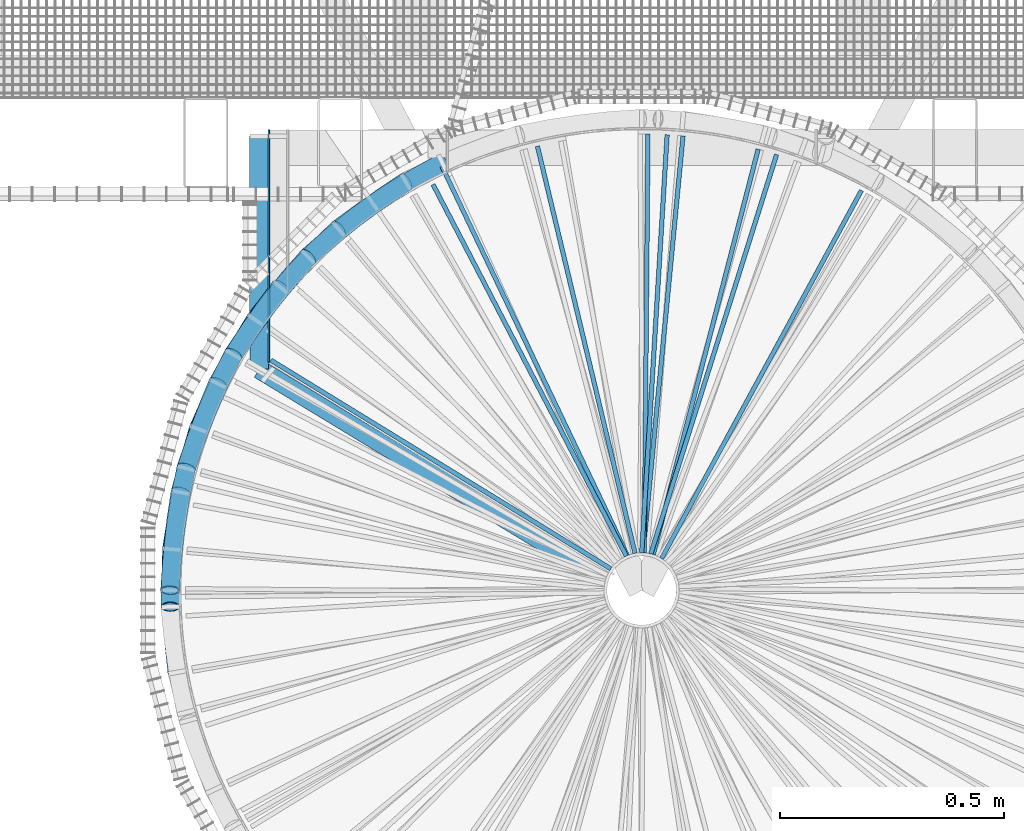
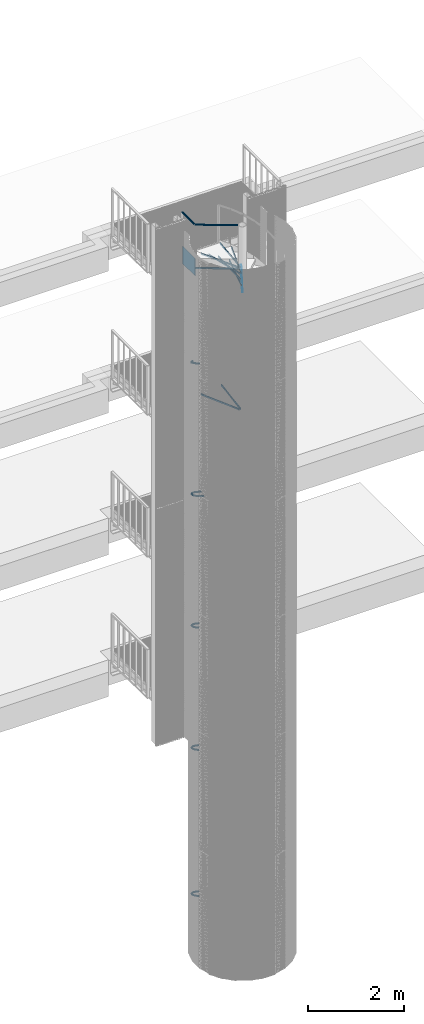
# One storey, part 217 of 1148: 20 members, 13 beams, 24 elements without a shape of their own.
"""IFC2X3 building model written with IfcOpenShell, lengths in millimetres."""

import ifcopenshell
import ifcopenshell.guid

model = None  # the IFC model being written
_history = None  # IfcOwnerHistory: only IFC2X3 demands one
_inside = {}  # id of a spatial element -> (the spatial element, [elements in it])
_under = {}  # id of a project, library or spatial element -> (it, [spatial elements below it])
_declared = {}  # id of a project -> (the project, [libraries it declares])
_typed = {}  # id of a type object -> (the type object, [elements of that type])
_made_of = {}  # id of a material, layer set ... -> (it, [elements and type objects made of it])


def new_model(schema):
    """Start an empty IFC model of exactly this schema.

    Asked for "IFC4X3", IfcOpenShell would pick the latest addendum, in which some entities
    have other attributes; the version numbers below select the first issue.
    IFC2X3 requires an IfcOwnerHistory on every rooted entity: one is made here for all.
    """
    global model, _history
    if schema == "IFC4X3":
        model = ifcopenshell.file(schema_version=(4, 3, 0, 0))
    else:
        model = ifcopenshell.file(schema=schema)
    _inside.clear()
    _under.clear()
    _declared.clear()
    _typed.clear()
    _made_of.clear()
    _history = None
    if model.schema == "IFC2X3":
        org = make("IfcOrganization", Name="unknown")
        user = make(
            "IfcPersonAndOrganization",
            ThePerson=make("IfcPerson", FamilyName="unknown"),
            TheOrganization=org,
        )
        app = make(
            "IfcApplication",
            ApplicationDeveloper=org,
            Version="unknown",
            ApplicationFullName="unknown",
            ApplicationIdentifier="unknown",
        )
        _history = make(
            "IfcOwnerHistory",
            OwningUser=user,
            OwningApplication=app,
            ChangeAction="ADDED",
            CreationDate=0,
        )
    return model


def make(cls, **values):
    """One entity of the class cls with the attributes given. An attribute that is None is left unset."""
    return model.create_entity(
        cls, **{name: value for name, value in values.items() if value is not None}
    )


def entity(cls, *values):
    """Any entity or typed value of the class cls, its attributes in the order of the schema. None: left unset."""
    e = model.create_entity(cls)
    for i, value in enumerate(values):
        if value is not None:
            e[i] = value
    return e


def rooted(cls, **values):
    """An entity with a GlobalId (a new one), such as an element, a storey or a relation."""
    return make(cls, GlobalId=ifcopenshell.guid.new(), OwnerHistory=_history, **values)


def si_unit(unit_type, name, prefix=None):
    """IfcSIUnit, for example si_unit("LENGTHUNIT", "METRE", prefix="MILLI")."""
    return make("IfcSIUnit", UnitType=unit_type, Prefix=prefix, Name=name)


def assignment(units):
    """IfcUnitAssignment: the units of a project."""
    return None if units is None else make("IfcUnitAssignment", Units=units)


def point(xyz):
    """IfcCartesianPoint."""
    return None if xyz is None else make("IfcCartesianPoint", Coordinates=xyz)


def direction(xyz):
    """IfcDirection."""
    return None if xyz is None else make("IfcDirection", DirectionRatios=xyz)


def frame(location, z_axis=None, x_axis=None):
    """IfcAxis2Placement3D, a coordinate frame: its origin and axes. An axis left out is left unset."""
    return make(
        "IfcAxis2Placement3D",
        Location=point(location),
        Axis=direction(z_axis),
        RefDirection=direction(x_axis),
    )


def frame_2d(location, x_axis=None):
    """IfcAxis2Placement2D, a coordinate frame in the plane: its origin and x axis."""
    return make(
        "IfcAxis2Placement2D", Location=point(location), RefDirection=direction(x_axis)
    )


def origin_with_axes():
    """The frame at (0, 0, 0) with the z axis (0, 0, 1) and the x axis (1, 0, 0) written out."""
    return frame((0.0, 0.0, 0.0), z_axis=(0.0, 0.0, 1.0), x_axis=(1.0, 0.0, 0.0))


def origin_2d_with_axis():
    """The frame at (0, 0) in the plane with the x axis (1, 0) written out."""
    return frame_2d((0.0, 0.0), x_axis=(1.0, 0.0))


def place(relative_to, where):
    """IfcLocalPlacement: puts the frame where relative to a parent placement (None: the world)."""
    return make(
        "IfcLocalPlacement", PlacementRelTo=relative_to, RelativePlacement=where
    )


def context(
    kind, dimensions, precision=None, world=None, true_north=None, identifier=None
):
    """IfcGeometricRepresentationContext, for example the 3D "Model" context."""
    return make(
        "IfcGeometricRepresentationContext",
        ContextIdentifier=identifier,
        ContextType=kind,
        CoordinateSpaceDimension=dimensions,
        Precision=precision,
        WorldCoordinateSystem=world,
        TrueNorth=true_north,
    )


def subcontext(parent, identifier, kind, view, scale=None):
    """IfcGeometricRepresentationSubContext, for example "Body" below "Model"."""
    return make(
        "IfcGeometricRepresentationSubContext",
        ContextIdentifier=identifier,
        ContextType=kind,
        ParentContext=parent,
        TargetScale=scale,
        TargetView=view,
    )


def project(units=None, contexts=None):
    """IfcProject with its units and contexts."""
    return rooted(
        "IfcProject",
        Name="project",
        RepresentationContexts=contexts,
        UnitsInContext=assignment(units),
    )


def spatial(cls, under=None, at=None, **own):
    """A site, building, storey or space (cls), placed at a placement, below another one or the project."""
    s = rooted(cls, ObjectPlacement=at, **own)
    if under is not None:
        _under.setdefault(under.id(), (under, []))[1].append(s)
    return s


def profile(cls, at=None, kind="AREA", **sizes):
    """A parametric profile (cls). Its sizes go by their IFC names, for example OverallWidth=200.0."""
    return make(cls, ProfileType=kind, Position=at, **sizes)


def rectangle(**sizes):
    """IfcRectangleProfileDef."""
    return profile("IfcRectangleProfileDef", **sizes)


def hollow_circle(**sizes):
    """IfcCircleHollowProfileDef."""
    return profile("IfcCircleHollowProfileDef", **sizes)


def extrude(swept, where, along, depth):
    """IfcExtrudedAreaSolid: the profile swept, set in the frame where, extruded along a direction by depth."""
    return make(
        "IfcExtrudedAreaSolid",
        SweptArea=swept,
        Position=where,
        ExtrudedDirection=direction(along),
        Depth=depth,
    )


def shape(context_of_items, identifier, shape_type, items):
    """IfcShapeRepresentation: the items that make up one representation, for example the "Body"."""
    return make(
        "IfcShapeRepresentation",
        ContextOfItems=context_of_items,
        RepresentationIdentifier=identifier,
        RepresentationType=shape_type,
        Items=items,
    )


def material(Name=None, Category=None):
    """IfcMaterial."""
    return make("IfcMaterial", Name=Name, Category=Category)


def made_of(thing, what):
    """Note that an element or type object is made of a material, layer set ...; save() writes the relation."""
    if what is not None:
        _made_of.setdefault(what.id(), (what, []))[1].append(thing)
    return thing


def type_object(cls, material=None, **own):
    """A type object (cls), such as IfcWallType, which elements share."""
    return made_of(rooted(cls, **own), material)


def element(
    cls,
    number,
    at=None,
    inside=None,
    cuts=None,
    type_object=None,
    material=None,
    context=None,
    identifier="Body",
    shape_type=None,
    held_by="IfcProductDefinitionShape",
    body=None,
    shapes=None,
    **own,
):
    """One element of the class cls, such as IfcWall. Its Tag is "e" and its number.

    at: its placement. inside: the storey or other place that contains it. cuts: it is an
    opening in that element (IfcRelVoidsElement). A single representation is given by context,
    identifier, shape_type and body (its items); several are given by shapes. held_by: the class
    of the entity that holds the representations. save() writes the other relations.
    """
    e = rooted(cls, Tag="e%d" % number, ObjectPlacement=at, **own)
    if body is not None:
        shapes = [shape(context, identifier, shape_type, body)]
    if shapes is not None:
        e.Representation = make(held_by, Representations=shapes)
    if inside is not None:
        _inside.setdefault(inside.id(), (inside, []))[1].append(e)
    if cuts is not None:
        rooted(
            "IfcRelVoidsElement", RelatingBuildingElement=cuts, RelatedOpeningElement=e
        )
    if type_object is not None:
        _typed.setdefault(type_object.id(), (type_object, []))[1].append(e)
    return made_of(e, material)


def aggregate(whole, parts):
    """IfcRelAggregates: a whole, such as a stair, and the parts it consists of."""
    return rooted("IfcRelAggregates", RelatingObject=whole, RelatedObjects=parts)


def save(model, path):
    """Write the relations noted so far, then the file.

    IfcRelAggregates (storeys below a building ...), IfcRelContainedInSpatialStructure (elements
    in a storey), IfcRelDefinesByType, IfcRelAssociatesMaterial and IfcRelDeclares: one each for
    every whole, place, type object, material and project.
    """
    for whole, parts in _under.values():
        aggregate(whole, parts)
    for where, things in _inside.values():
        rooted(
            "IfcRelContainedInSpatialStructure",
            RelatedElements=things,
            RelatingStructure=where,
        )
    for kind, things in _typed.values():
        rooted("IfcRelDefinesByType", RelatedObjects=things, RelatingType=kind)
    for what, things in _made_of.values():
        rooted("IfcRelAssociatesMaterial", RelatedObjects=things, RelatingMaterial=what)
    for by, libraries in _declared.values():
        rooted("IfcRelDeclares", RelatingContext=by, RelatedDefinitions=libraries)
    model.write(path)


model = new_model("IFC2X3")

# Units and contexts
model_context = context("Model", 3, precision=1e-05, world=origin_with_axes())
body_context = subcontext(model_context, "Body", "Model", "MODEL_VIEW")
ifc_project = project(units=[si_unit("LENGTHUNIT", "METRE", prefix="MILLI"), si_unit("AREAUNIT", "SQUARE_METRE"), si_unit("VOLUMEUNIT", "CUBIC_METRE"), si_unit("MASSUNIT", "GRAM", prefix="KILO"), si_unit("TIMEUNIT", "SECOND"), si_unit("PLANEANGLEUNIT", "RADIAN"), si_unit("SOLIDANGLEUNIT", "STERADIAN"), si_unit("THERMODYNAMICTEMPERATUREUNIT", "DEGREE_CELSIUS"), si_unit("LUMINOUSINTENSITYUNIT", "LUMEN")], contexts=[model_context])

# Site, building, storey
site_placement = place(None, origin_with_axes())
site = spatial("IfcSite", under=ifc_project, at=site_placement, Name="Undefined", CompositionType="ELEMENT")
building_placement = place(site_placement, origin_with_axes())
building = spatial("IfcBuilding", under=site, at=building_placement, Name="Undefined", CompositionType="ELEMENT")
storey_placement = place(building_placement, origin_with_axes())
storey = spatial("IfcBuildingStorey", under=building, at=storey_placement, Name="Undefined", CompositionType="ELEMENT", Elevation=0.0)

# Assembly, beams
assembly_1_placement = place(storey_placement, origin_with_axes())
assembly_1 = element("IfcElementAssembly", 1, at=assembly_1_placement, inside=storey, Name="POTEAU", AssemblyPlace="NOTDEFINED", PredefinedType="NOTDEFINED")
ifc_material = material(Name="STEEL/S235JR")
beam_type_1 = type_object("IfcBeamType", Name="PL10*40", PredefinedType="NOTDEFINED")
beam_1_placement = place(assembly_1_placement, frame((-68.8944826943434, 48.1595929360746, 17265.96), z_axis=(0.0, 0.0, 1.0), x_axis=(-0.852231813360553, 0.523164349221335, 0.0)))
beam_1 = element("IfcBeam", 2, at=beam_1_placement, type_object=beam_type_1, material=ifc_material, Name="RAIDISSEUR", context=body_context, shape_type="SweptSolid", body=[
    extrude(rectangle(XDim=10.0, YDim=40.0, at=origin_2d_with_axis()), frame((891.021953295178, 1.8684510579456e-12, 3.63797880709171e-12), z_axis=(-1.0, 0.0, 0.0), x_axis=(0.0, -1.0, 0.0)), (0.0, 0.0, 1.0), 891.02),
])
beam_2_placement = place(assembly_1_placement, frame((-14.7051172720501, 82.7620424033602, 17109.44), z_axis=(0.0, 0.0, 1.0), x_axis=(-0.233195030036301, 0.972429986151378, 0.0)))
beam_2 = element("IfcBeam", 3, at=beam_2_placement, type_object=beam_type_1, material=ifc_material, Name="RAIDISSEUR", context=body_context, shape_type="SweptSolid", body=[
    extrude(rectangle(XDim=10.0, YDim=40.0, at=origin_2d_with_axis()), frame((935.982964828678, -2.59787459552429e-14, -3.63797880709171e-12), z_axis=(-1.0, 0.0, 0.0), x_axis=(0.0, -1.0, 0.0)), (0.0, 0.0, 1.0), 935.98),
])
beam_3_placement = place(assembly_1_placement, frame((0.110235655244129, 84.0582178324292, 17265.96), z_axis=(0.0, 0.0, 1.0), x_axis=(0.0607915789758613, 0.998150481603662, 0.0)))
beam_3 = element("IfcBeam", 4, at=beam_3_placement, type_object=beam_type_1, material=ifc_material, Name="RAIDISSEUR", context=body_context, shape_type="SweptSolid", body=[
    extrude(rectangle(XDim=10.0, YDim=40.0, at=origin_2d_with_axis()), frame((935.982964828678, -2.59787459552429e-14, -3.63797880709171e-12), z_axis=(-1.0, 0.0, 0.0), x_axis=(0.0, -1.0, 0.0)), (0.0, 0.0, 1.0), 935.98),
])
beam_4_placement = place(assembly_1_placement, frame((5.75363773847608, 83.861145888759, 16952.92), z_axis=(0.0, 0.0, 1.0), x_axis=(0.00898396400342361, 0.999959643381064, 0.0)))
beam_4 = element("IfcBeam", 5, at=beam_4_placement, type_object=beam_type_1, material=ifc_material, Name="RAIDISSEUR", context=body_context, shape_type="SweptSolid", body=[
    extrude(rectangle(XDim=10.0, YDim=40.0, at=origin_2d_with_axis()), frame((935.982964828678, -2.59787459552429e-14, -3.63797880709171e-12), z_axis=(-1.0, 0.0, 0.0), x_axis=(0.0, -1.0, 0.0)), (0.0, 0.0, 1.0), 935.98),
])
beam_5_placement = place(assembly_1_placement, frame((-34.2902626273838, 76.7461662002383, 17265.96), z_axis=(0.0, 0.0, 1.0), x_axis=(-0.461520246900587, 0.88712967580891, 0.0)))
beam_5 = element("IfcBeam", 6, at=beam_5_placement, type_object=beam_type_1, material=ifc_material, Name="RAIDISSEUR", context=body_context, shape_type="SweptSolid", body=[
    extrude(rectangle(XDim=10.0, YDim=40.0, at=origin_2d_with_axis()), frame((935.982964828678, -2.59787459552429e-14, -3.63797880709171e-12), z_axis=(-1.0, 0.0, 0.0), x_axis=(0.0, -1.0, 0.0)), (0.0, 0.0, 1.0), 935.98),
])
beam_6_placement = place(assembly_1_placement, frame((25.8705774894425, 79.9781805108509, 16796.4), z_axis=(0.0, 0.0, 1.0), x_axis=(0.250629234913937, 0.968083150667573, 0.0)))
beam_6 = element("IfcBeam", 7, at=beam_6_placement, type_object=beam_type_1, material=ifc_material, Name="RAIDISSEUR", context=body_context, shape_type="SweptSolid", body=[
    extrude(rectangle(XDim=10.0, YDim=40.0, at=origin_2d_with_axis()), frame((935.982964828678, -2.59787459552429e-14, -3.63797880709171e-12), z_axis=(-1.0, 0.0, 0.0), x_axis=(0.0, -1.0, 0.0)), (0.0, 0.0, 1.0), 935.98),
])
beam_7_placement = place(assembly_1_placement, frame((20.4424845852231, 81.5346611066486, 17109.44), z_axis=(0.0, 0.0, 1.0), x_axis=(0.300460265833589, 0.953794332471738, 0.0)))
beam_7 = element("IfcBeam", 8, at=beam_7_placement, type_object=beam_type_1, material=ifc_material, Name="RAIDISSEUR", context=body_context, shape_type="SweptSolid", body=[
    extrude(rectangle(XDim=10.0, YDim=40.0, at=origin_2d_with_axis()), frame((935.982964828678, -2.59787459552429e-14, -3.63797880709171e-12), z_axis=(-1.0, 0.0, 0.0), x_axis=(0.0, -1.0, 0.0)), (0.0, 0.0, 1.0), 935.98),
])
beam_8_placement = place(assembly_1_placement, frame((44.4505838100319, 71.3438275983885, 16639.88), z_axis=(0.0, 0.0, 1.0), x_axis=(0.477384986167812, 0.878694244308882, 0.0)))
beam_8 = element("IfcBeam", 9, at=beam_8_placement, type_object=beam_type_1, material=ifc_material, Name="RAIDISSEUR", context=body_context, shape_type="SweptSolid", body=[
    extrude(rectangle(XDim=10.0, YDim=40.0, at=origin_2d_with_axis()), frame((935.982964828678, -2.59787459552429e-14, -3.63797880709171e-12), z_axis=(-1.0, 0.0, 0.0), x_axis=(0.0, -1.0, 0.0)), (0.0, 0.0, 1.0), 935.98),
])

assembly_2_placement = place(storey_placement, origin_with_axes())
assembly_2 = element("IfcElementAssembly", 10, at=assembly_2_placement, inside=storey, Name="POTEAU", AssemblyPlace="NOTDEFINED", PredefinedType="NOTDEFINED")
beam_9_placement = place(assembly_2_placement, frame((3.043757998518, 84.0031646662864, 13665.96), z_axis=(0.0, 0.0, 1.0), x_axis=(0.0955894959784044, 0.995420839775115, 0.0)))
beam_9 = element("IfcBeam", 11, at=beam_9_placement, type_object=beam_type_1, material=ifc_material, Name="RAIDISSEUR", context=body_context, shape_type="SweptSolid", body=[
    extrude(rectangle(XDim=10.0, YDim=40.0, at=origin_2d_with_axis()), frame((935.982964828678, -2.59787459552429e-14, -3.63797880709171e-12), z_axis=(-1.0, 0.0, 0.0), x_axis=(0.0, -1.0, 0.0)), (0.0, 0.0, 1.0), 935.98),
])
beam_10_placement = place(assembly_2_placement, frame((-31.59098121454, 77.8961481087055, 13665.96), z_axis=(0.0, 0.0, 1.0), x_axis=(-0.430274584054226, 0.902698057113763, 0.0)))
beam_10 = element("IfcBeam", 12, at=beam_10_placement, type_object=beam_type_1, material=ifc_material, Name="RAIDISSEUR", context=body_context, shape_type="SweptSolid", body=[
    extrude(rectangle(XDim=10.0, YDim=40.0, at=origin_2d_with_axis()), frame((963.276868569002, 0.0, 0.0), z_axis=(-1.0, 0.0, 0.0), x_axis=(0.0, -1.0, 0.0)), (0.0, 0.0, 1.0), 963.28),
])
aggregate(assembly_2, [beam_9, beam_10])

# Beam
beam_type_2 = type_object("IfcBeamType", Name="PLT4*450", PredefinedType="NOTDEFINED")
beam_11_placement = place(assembly_1_placement, frame((-832.864575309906, 510.050600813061, 17289.84), z_axis=(0.0, 0.0, 1.0), x_axis=(-1.04319999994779e-05, 0.999999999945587, 0.0)))
beam_11 = element("IfcBeam", 13, at=beam_11_placement, type_object=beam_type_2, material=ifc_material, Name="GARDE_PIED", context=body_context, shape_type="SweptSolid", body=[
    extrude(rectangle(XDim=4.0, YDim=450.0, at=origin_2d_with_axis()), frame((519.965544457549, 3.63797880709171e-12, 0.0), z_axis=(-1.0, 0.0, 0.0), x_axis=(0.0, -1.0, 0.0)), (0.0, 0.0, 1.0), 519.97),
])

aggregate(assembly_1, [beam_1, beam_11, beam_2, beam_3, beam_4, beam_5, beam_6, beam_7, beam_8])

# Assembly, beam
assembly_3_placement = place(storey_placement, origin_with_axes())
assembly_3 = element("IfcElementAssembly", 14, at=assembly_3_placement, inside=storey, Name="MAIN_COURANTE", AssemblyPlace="NOTDEFINED", PredefinedType="NOTDEFINED")
beam_type_3 = type_object("IfcBeamType", Name="TUBE-42.4*3.2", PredefinedType="NOTDEFINED")
beam_12_placement = place(assembly_3_placement, frame((-84.9748462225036, 26.4035149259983, 18389.8400000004), z_axis=(-0.51937688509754, -0.854545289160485, 0.0), x_axis=(-0.854545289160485, 0.51937688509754, 0.0)))
beam_12 = element("IfcBeam", 15, at=beam_12_placement, type_object=beam_type_3, material=ifc_material, Name="MAIN_COURANTE", context=body_context, shape_type="SweptSolid", body=[
    extrude(hollow_circle(Radius=21.200000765, WallThickness=3.200000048, at=origin_2d_with_axis()), frame((900.837210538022, 0.0, 0.0), z_axis=(-1.0, 0.0, 0.0), x_axis=(0.0, -1.0, 0.0)), (0.0, 0.0, 1.0), 900.84),
])
aggregate(assembly_3, [beam_12])

assembly_4_placement = place(storey_placement, origin_with_axes())
assembly_4 = element("IfcElementAssembly", 16, at=assembly_4_placement, inside=storey, Name="MAIN_COURANTE", AssemblyPlace="NOTDEFINED", PredefinedType="NOTDEFINED")
beam_13_placement = place(assembly_4_placement, frame((-854.781040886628, 494.277539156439, 18389.8400000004), z_axis=(-0.999999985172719, -0.000172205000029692, 0.0), x_axis=(-0.000172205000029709, 0.999999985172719, 0.0)))
beam_13 = element("IfcBeam", 17, at=beam_13_placement, type_object=beam_type_3, material=ifc_material, Name="MAIN_COURANTE", context=body_context, shape_type="SweptSolid", body=[
    extrude(hollow_circle(Radius=21.200000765, WallThickness=3.200000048, at=origin_2d_with_axis()), frame((521.092468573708, 3.63797880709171e-12, 0.0), z_axis=(-1.0, 0.0, 0.0), x_axis=(0.0, -1.0, 0.0)), (0.0, 0.0, 1.0), 521.09),
])
aggregate(assembly_4, [beam_13])

# Assembly, member
assembly_5_placement = place(storey_placement, origin_with_axes())
assembly_5 = element("IfcElementAssembly", 18, at=assembly_5_placement, inside=storey, Name="MONTANT", AssemblyPlace="NOTDEFINED", PredefinedType="NOTDEFINED")
member_type = type_object("IfcMemberType", Name="TUBE-42.4*3.2", PredefinedType="NOTDEFINED")
member_1_placement = place(assembly_5_placement, frame((-1018.08582091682, 272.795273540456, 5272.03999999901), z_axis=(-0.991444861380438, 0.130526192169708, 6.66032065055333e-11), x_axis=(-0.113807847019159, -0.864456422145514, 0.489655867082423)))
member_1 = element("IfcMember", 19, at=member_1_placement, type_object=member_type, material=ifc_material, Name="MAIN_COURANTE", context=body_context, shape_type="SweptSolid", body=[
    entity("IfcRevolvedAreaSolid", entity("IfcCircleHollowProfileDef", "AREA", None, entity("IfcAxis2Placement2D", entity("IfcCartesianPoint", [0.0, 0.0]), entity("IfcDirection", [1.0, 0.0])), 21.200000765, 3.200000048), entity("IfcAxis2Placement3D", entity("IfcCartesianPoint", [315.568566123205, -9.09494701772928e-13, -1.31255851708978e-15]), entity("IfcDirection", [-0.997194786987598, -4.44488503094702e-18, 0.0748502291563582]), entity("IfcDirection", [0.0, -1.0, 0.0])), entity("IfcAxis1Placement", entity("IfcCartesianPoint", [0.0, -2108.0, 0.0]), entity("IfcDirection", [1.0, 0.0, 0.0])), 0.149840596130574),
])
aggregate(assembly_5, [member_1])

assembly_6_placement = place(storey_placement, origin_with_axes())
assembly_6 = element("IfcElementAssembly", 20, at=assembly_6_placement, inside=storey, Name="MONTANT", AssemblyPlace="NOTDEFINED", PredefinedType="NOTDEFINED")
member_2_placement = place(assembly_6_placement, frame((-912.79077557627, 526.999999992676, 5117.51999999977), z_axis=(-0.923879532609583, 0.382683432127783, 1.50203049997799e-10), x_axis=(-0.333667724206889, -0.805545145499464, 0.489655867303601)))
member_2 = element("IfcMember", 21, at=member_2_placement, type_object=member_type, material=ifc_material, Name="MAIN_COURANTE", context=body_context, shape_type="SweptSolid", body=[
    entity("IfcRevolvedAreaSolid", entity("IfcCircleHollowProfileDef", "AREA", None, entity("IfcAxis2Placement2D", entity("IfcCartesianPoint", [0.0, 0.0]), entity("IfcDirection", [1.0, 0.0])), 21.200000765, 3.200000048), entity("IfcAxis2Placement3D", entity("IfcCartesianPoint", [315.568566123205, -9.09494701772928e-13, -1.31255851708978e-15]), entity("IfcDirection", [-0.997194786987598, -4.44488503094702e-18, 0.0748502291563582]), entity("IfcDirection", [0.0, -1.0, 0.0])), entity("IfcAxis1Placement", entity("IfcCartesianPoint", [0.0, -2108.0, 0.0]), entity("IfcDirection", [1.0, 0.0, 0.0])), 0.149840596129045),
])
aggregate(assembly_6, [member_2])

assembly_7_placement = place(storey_placement, origin_with_axes())
assembly_7 = element("IfcElementAssembly", 22, at=assembly_7_placement, inside=storey, Name="MONTANT", AssemblyPlace="NOTDEFINED", PredefinedType="NOTDEFINED")
member_3_placement = place(assembly_7_placement, frame((-745.290547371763, 745.290547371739, 4963.00000000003), z_axis=(-0.793353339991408, 0.608761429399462, 1.80913048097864e-10), x_axis=(-0.53078869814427, -0.691737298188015, 0.489655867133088)))
member_3 = element("IfcMember", 23, at=member_3_placement, type_object=member_type, material=ifc_material, Name="MAIN_COURANTE", context=body_context, shape_type="SweptSolid", body=[
    entity("IfcRevolvedAreaSolid", entity("IfcCircleHollowProfileDef", "AREA", None, entity("IfcAxis2Placement2D", entity("IfcCartesianPoint", [0.0, 0.0]), entity("IfcDirection", [1.0, 0.0])), 21.200000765, 3.200000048), entity("IfcAxis2Placement3D", entity("IfcCartesianPoint", [315.568566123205, -9.09494701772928e-13, -1.31255851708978e-15]), entity("IfcDirection", [-0.997194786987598, -4.44488503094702e-18, 0.0748502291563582]), entity("IfcDirection", [0.0, -1.0, 0.0])), entity("IfcAxis1Placement", entity("IfcCartesianPoint", [0.0, -2108.0, 0.0]), entity("IfcDirection", [1.0, 0.0, 0.0])), 0.149840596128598),
])
aggregate(assembly_7, [member_3])

assembly_8_placement = place(storey_placement, origin_with_axes())
assembly_8 = element("IfcElementAssembly", 24, at=assembly_8_placement, inside=storey, Name="MONTANT", AssemblyPlace="NOTDEFINED", PredefinedType="NOTDEFINED")
member_4_placement = place(assembly_8_placement, frame((-527.000000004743, 912.790775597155, 4808.47999999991), z_axis=(-0.608761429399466, 0.793353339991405, -1.80915321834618e-10), x_axis=(-0.691737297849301, -0.530788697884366, 0.489655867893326)))
member_4 = element("IfcMember", 25, at=member_4_placement, type_object=member_type, material=ifc_material, Name="MAIN_COURANTE", context=body_context, shape_type="SweptSolid", body=[
    entity("IfcRevolvedAreaSolid", entity("IfcCircleHollowProfileDef", "AREA", None, entity("IfcAxis2Placement2D", entity("IfcCartesianPoint", [0.0, 0.0]), entity("IfcDirection", [1.0, 0.0])), 21.200000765, 3.200000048), entity("IfcAxis2Placement3D", entity("IfcCartesianPoint", [315.568566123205, -9.09494701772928e-13, -1.31255851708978e-15]), entity("IfcDirection", [-0.997194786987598, -4.44488503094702e-18, 0.0748502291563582]), entity("IfcDirection", [0.0, -1.0, 0.0])), entity("IfcAxis1Placement", entity("IfcCartesianPoint", [0.0, -2108.0, 0.0]), entity("IfcDirection", [1.0, 0.0, 0.0])), 0.149840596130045),
])
aggregate(assembly_8, [member_4])

assembly_9_placement = place(storey_placement, origin_with_axes())
assembly_9 = element("IfcElementAssembly", 26, at=assembly_9_placement, inside=storey, Name="MONTANT", AssemblyPlace="NOTDEFINED", PredefinedType="NOTDEFINED")
member_5_placement = place(assembly_9_placement, frame((-1018.08582091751, 272.795273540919, 8372.60000000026), z_axis=(-0.991444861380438, 0.130526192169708, 6.66032065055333e-11), x_axis=(-0.113454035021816, -0.861768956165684, 0.494451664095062)))
member_5 = element("IfcMember", 27, at=member_5_placement, type_object=member_type, material=ifc_material, Name="MAIN_COURANTE", context=body_context, shape_type="SweptSolid", body=[
    entity("IfcRevolvedAreaSolid", entity("IfcCircleHollowProfileDef", "AREA", None, entity("IfcAxis2Placement2D", entity("IfcCartesianPoint", [0.0, 0.0]), entity("IfcDirection", [1.0, 0.0])), 21.200000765, 3.200000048), entity("IfcAxis2Placement3D", entity("IfcCartesianPoint", [316.552681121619, 9.09494701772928e-13, -1.82569453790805e-12]), entity("IfcDirection", [-0.997177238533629, 2.1263748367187e-18, 0.0750836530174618]), entity("IfcDirection", [0.0, -1.0, 0.0])), entity("IfcAxis1Placement", entity("IfcCartesianPoint", [0.0, -2108.0, 0.0]), entity("IfcDirection", [1.0, 0.0, 0.0])), 0.150308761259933),
])
aggregate(assembly_9, [member_5])

assembly_10_placement = place(storey_placement, origin_with_axes())
assembly_10 = element("IfcElementAssembly", 28, at=assembly_10_placement, inside=storey, Name="MONTANT", AssemblyPlace="NOTDEFINED", PredefinedType="NOTDEFINED")
member_6_placement = place(assembly_10_placement, frame((-912.79077559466, 527.000000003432, 8216.07999999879), z_axis=(-0.923879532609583, 0.382683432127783, 1.50203049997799e-10), x_axis=(-0.332630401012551, -0.803040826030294, 0.494451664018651)))
member_6 = element("IfcMember", 29, at=member_6_placement, type_object=member_type, material=ifc_material, Name="MAIN_COURANTE", context=body_context, shape_type="SweptSolid", body=[
    entity("IfcRevolvedAreaSolid", entity("IfcCircleHollowProfileDef", "AREA", None, entity("IfcAxis2Placement2D", entity("IfcCartesianPoint", [0.0, 0.0]), entity("IfcDirection", [1.0, 0.0])), 21.200000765, 3.200000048), entity("IfcAxis2Placement3D", entity("IfcCartesianPoint", [316.552681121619, 9.09494701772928e-13, -1.82569453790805e-12]), entity("IfcDirection", [-0.997177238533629, 2.1263748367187e-18, 0.0750836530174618]), entity("IfcDirection", [0.0, -1.0, 0.0])), entity("IfcAxis1Placement", entity("IfcCartesianPoint", [0.0, -2108.0, 0.0]), entity("IfcDirection", [1.0, 0.0, 0.0])), 0.150308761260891),
])
aggregate(assembly_10, [member_6])

assembly_11_placement = place(storey_placement, origin_with_axes())
assembly_11 = element("IfcElementAssembly", 30, at=assembly_11_placement, inside=storey, Name="MONTANT", AssemblyPlace="NOTDEFINED", PredefinedType="NOTDEFINED")
member_7_placement = place(assembly_11_placement, frame((-745.290547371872, 745.290547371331, 8059.55999999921), z_axis=(-0.793353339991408, 0.608761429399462, 1.80913048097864e-10), x_axis=(-0.5291385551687, -0.689586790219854, 0.49445166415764)))
member_7 = element("IfcMember", 31, at=member_7_placement, type_object=member_type, material=ifc_material, Name="MAIN_COURANTE", context=body_context, shape_type="SweptSolid", body=[
    entity("IfcRevolvedAreaSolid", entity("IfcCircleHollowProfileDef", "AREA", None, entity("IfcAxis2Placement2D", entity("IfcCartesianPoint", [0.0, 0.0]), entity("IfcDirection", [1.0, 0.0])), 21.200000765, 3.200000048), entity("IfcAxis2Placement3D", entity("IfcCartesianPoint", [316.552681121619, 9.09494701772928e-13, -1.82569453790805e-12]), entity("IfcDirection", [-0.997177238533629, 2.1263748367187e-18, 0.0750836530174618]), entity("IfcDirection", [0.0, -1.0, 0.0])), entity("IfcAxis1Placement", entity("IfcCartesianPoint", [0.0, -2108.0, 0.0]), entity("IfcDirection", [1.0, 0.0, 0.0])), 0.150308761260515),
])
aggregate(assembly_11, [member_7])

assembly_12_placement = place(storey_placement, origin_with_axes())
assembly_12 = element("IfcElementAssembly", 32, at=assembly_12_placement, inside=storey, Name="MONTANT", AssemblyPlace="NOTDEFINED", PredefinedType="NOTDEFINED")
member_8_placement = place(assembly_12_placement, frame((-1049.98921176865, 91.8621528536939, 11816.0800000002), z_axis=(-0.999048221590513, -0.0436193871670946, 1.05123035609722e-10), x_axis=(0.0379141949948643, -0.868377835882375, 0.494451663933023)))
member_8 = element("IfcMember", 33, at=member_8_placement, type_object=member_type, material=ifc_material, Name="MAIN_COURANTE", context=body_context, shape_type="SweptSolid", body=[
    entity("IfcRevolvedAreaSolid", entity("IfcCircleHollowProfileDef", "AREA", None, entity("IfcAxis2Placement2D", entity("IfcCartesianPoint", [0.0, 0.0]), entity("IfcDirection", [1.0, 0.0])), 21.200000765, 3.200000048), entity("IfcAxis2Placement3D", entity("IfcCartesianPoint", [316.552681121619, 9.09494701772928e-13, -1.82569453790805e-12]), entity("IfcDirection", [-0.997177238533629, 2.1263748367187e-18, 0.0750836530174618]), entity("IfcDirection", [0.0, -1.0, 0.0])), entity("IfcAxis1Placement", entity("IfcCartesianPoint", [0.0, -2108.0, 0.0]), entity("IfcDirection", [1.0, 0.0, 0.0])), 0.15030876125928),
])
aggregate(assembly_12, [member_8])

assembly_13_placement = place(storey_placement, origin_with_axes())
assembly_13 = element("IfcElementAssembly", 34, at=assembly_13_placement, inside=storey, Name="MONTANT", AssemblyPlace="NOTDEFINED", PredefinedType="NOTDEFINED")
member_9_placement = place(assembly_13_placement, frame((-990.43602230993, 360.489231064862, 11659.5600000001), z_axis=(-0.97629600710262, 0.216439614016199, 3.63797880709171e-12), x_axis=(-0.188130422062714, -0.848601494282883, 0.494451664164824)))
member_9 = element("IfcMember", 35, at=member_9_placement, type_object=member_type, material=ifc_material, Name="MAIN_COURANTE", context=body_context, shape_type="SweptSolid", body=[
    entity("IfcRevolvedAreaSolid", entity("IfcCircleHollowProfileDef", "AREA", None, entity("IfcAxis2Placement2D", entity("IfcCartesianPoint", [0.0, 0.0]), entity("IfcDirection", [1.0, 0.0])), 21.200000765, 3.200000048), entity("IfcAxis2Placement3D", entity("IfcCartesianPoint", [316.552681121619, 9.09494701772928e-13, -1.82569453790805e-12]), entity("IfcDirection", [-0.997177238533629, 2.1263748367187e-18, 0.0750836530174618]), entity("IfcDirection", [0.0, -1.0, 0.0])), entity("IfcAxis1Placement", entity("IfcCartesianPoint", [0.0, -2108.0, 0.0]), entity("IfcDirection", [1.0, 0.0, 0.0])), 0.150308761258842),
])
aggregate(assembly_13, [member_9])

assembly_14_placement = place(storey_placement, origin_with_axes())
assembly_14 = element("IfcElementAssembly", 36, at=assembly_14_placement, inside=storey, Name="MONTANT", AssemblyPlace="NOTDEFINED", PredefinedType="NOTDEFINED")
member_10_placement = place(assembly_14_placement, frame((-1018.08582091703, 272.79527354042, 1563.55999999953), z_axis=(-0.991444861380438, 0.130526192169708, 6.66032065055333e-11), x_axis=(-0.113807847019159, -0.864456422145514, 0.489655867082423)))
member_10 = element("IfcMember", 37, at=member_10_placement, type_object=member_type, material=ifc_material, Name="MAIN_COURANTE", context=body_context, shape_type="SweptSolid", body=[
    entity("IfcRevolvedAreaSolid", entity("IfcCircleHollowProfileDef", "AREA", None, entity("IfcAxis2Placement2D", entity("IfcCartesianPoint", [0.0, 0.0]), entity("IfcDirection", [1.0, 0.0])), 21.200000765, 3.200000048), entity("IfcAxis2Placement3D", entity("IfcCartesianPoint", [315.568566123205, -9.09494701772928e-13, -1.31255851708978e-15]), entity("IfcDirection", [-0.997194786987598, -4.44488503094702e-18, 0.0748502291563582]), entity("IfcDirection", [0.0, -1.0, 0.0])), entity("IfcAxis1Placement", entity("IfcCartesianPoint", [0.0, -2108.0, 0.0]), entity("IfcDirection", [1.0, 0.0, 0.0])), 0.149840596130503),
])
aggregate(assembly_14, [member_10])

assembly_15_placement = place(storey_placement, origin_with_axes())
assembly_15 = element("IfcElementAssembly", 38, at=assembly_15_placement, inside=storey, Name="MONTANT", AssemblyPlace="NOTDEFINED", PredefinedType="NOTDEFINED")
member_11_placement = place(assembly_15_placement, frame((-912.790775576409, 526.999999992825, 1409.03999999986), z_axis=(-0.923879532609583, 0.382683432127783, 1.50203049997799e-10), x_axis=(-0.333667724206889, -0.805545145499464, 0.489655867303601)))
member_11 = element("IfcMember", 39, at=member_11_placement, type_object=member_type, material=ifc_material, Name="MAIN_COURANTE", context=body_context, shape_type="SweptSolid", body=[
    entity("IfcRevolvedAreaSolid", entity("IfcCircleHollowProfileDef", "AREA", None, entity("IfcAxis2Placement2D", entity("IfcCartesianPoint", [0.0, 0.0]), entity("IfcDirection", [1.0, 0.0])), 21.200000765, 3.200000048), entity("IfcAxis2Placement3D", entity("IfcCartesianPoint", [315.568566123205, -9.09494701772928e-13, -1.31255851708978e-15]), entity("IfcDirection", [-0.997194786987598, -4.44488503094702e-18, 0.0748502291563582]), entity("IfcDirection", [0.0, -1.0, 0.0])), entity("IfcAxis1Placement", entity("IfcCartesianPoint", [0.0, -2108.0, 0.0]), entity("IfcDirection", [1.0, 0.0, 0.0])), 0.149840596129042),
])
aggregate(assembly_15, [member_11])

assembly_16_placement = place(storey_placement, origin_with_axes())
assembly_16 = element("IfcElementAssembly", 40, at=assembly_16_placement, inside=storey, Name="MONTANT", AssemblyPlace="NOTDEFINED", PredefinedType="NOTDEFINED")
member_12_placement = place(assembly_16_placement, frame((-745.290547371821, 745.290547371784, 1254.51999999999), z_axis=(-0.793353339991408, 0.608761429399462, 1.80913048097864e-10), x_axis=(-0.53078869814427, -0.691737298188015, 0.489655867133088)))
member_12 = element("IfcMember", 41, at=member_12_placement, type_object=member_type, material=ifc_material, Name="MAIN_COURANTE", context=body_context, shape_type="SweptSolid", body=[
    entity("IfcRevolvedAreaSolid", entity("IfcCircleHollowProfileDef", "AREA", None, entity("IfcAxis2Placement2D", entity("IfcCartesianPoint", [0.0, 0.0]), entity("IfcDirection", [1.0, 0.0])), 21.200000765, 3.200000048), entity("IfcAxis2Placement3D", entity("IfcCartesianPoint", [315.568566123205, -9.09494701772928e-13, -1.31255851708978e-15]), entity("IfcDirection", [-0.997194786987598, -4.44488503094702e-18, 0.0748502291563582]), entity("IfcDirection", [0.0, -1.0, 0.0])), entity("IfcAxis1Placement", entity("IfcCartesianPoint", [0.0, -2108.0, 0.0]), entity("IfcDirection", [1.0, 0.0, 0.0])), 0.14984059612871),
])
aggregate(assembly_16, [member_12])

assembly_17_placement = place(storey_placement, origin_with_axes())
assembly_17 = element("IfcElementAssembly", 42, at=assembly_17_placement, inside=storey, Name="MONTANT", AssemblyPlace="NOTDEFINED", PredefinedType="NOTDEFINED")
member_13_placement = place(assembly_17_placement, frame((-527.000000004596, 912.790775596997, 1100.00000000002), z_axis=(-0.608761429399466, 0.793353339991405, -1.80915321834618e-10), x_axis=(-0.691737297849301, -0.530788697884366, 0.489655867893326)))
member_13 = element("IfcMember", 43, at=member_13_placement, type_object=member_type, material=ifc_material, Name="MAIN_COURANTE", context=body_context, shape_type="SweptSolid", body=[
    entity("IfcRevolvedAreaSolid", entity("IfcCircleHollowProfileDef", "AREA", None, entity("IfcAxis2Placement2D", entity("IfcCartesianPoint", [0.0, 0.0]), entity("IfcDirection", [1.0, 0.0])), 21.200000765, 3.200000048), entity("IfcAxis2Placement3D", entity("IfcCartesianPoint", [315.568566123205, -9.09494701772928e-13, -1.31255851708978e-15]), entity("IfcDirection", [-0.997194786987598, -4.44488503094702e-18, 0.0748502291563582]), entity("IfcDirection", [0.0, -1.0, 0.0])), entity("IfcAxis1Placement", entity("IfcCartesianPoint", [0.0, -2108.0, 0.0]), entity("IfcDirection", [1.0, 0.0, 0.0])), 0.149840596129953),
])
aggregate(assembly_17, [member_13])

assembly_18_placement = place(storey_placement, origin_with_axes())
assembly_18 = element("IfcElementAssembly", 44, at=assembly_18_placement, inside=storey, Name="MONTANT", AssemblyPlace="NOTDEFINED", PredefinedType="NOTDEFINED")
member_14_placement = place(assembly_18_placement, frame((-527.000000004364, 912.790775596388, 7903.04000000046), z_axis=(-0.608761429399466, 0.793353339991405, -1.80915321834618e-10), x_axis=(-0.689586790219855, -0.529138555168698, 0.494451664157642)))
member_14 = element("IfcMember", 45, at=member_14_placement, type_object=member_type, material=ifc_material, Name="MAIN_COURANTE", context=body_context, shape_type="SweptSolid", body=[
    entity("IfcRevolvedAreaSolid", entity("IfcCircleHollowProfileDef", "AREA", None, entity("IfcAxis2Placement2D", entity("IfcCartesianPoint", [0.0, 0.0]), entity("IfcDirection", [1.0, 0.0])), 21.200000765, 3.200000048), entity("IfcAxis2Placement3D", entity("IfcCartesianPoint", [316.552681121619, 9.09494701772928e-13, -1.82569453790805e-12]), entity("IfcDirection", [-0.997177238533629, 2.1263748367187e-18, 0.0750836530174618]), entity("IfcDirection", [0.0, -1.0, 0.0])), entity("IfcAxis1Placement", entity("IfcCartesianPoint", [0.0, -2108.0, 0.0]), entity("IfcDirection", [1.0, 0.0, 0.0])), 0.150308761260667),
])
aggregate(assembly_18, [member_14])

assembly_19_placement = place(storey_placement, origin_with_axes())
assembly_19 = element("IfcElementAssembly", 46, at=assembly_19_placement, inside=storey, Name="MONTANT", AssemblyPlace="NOTDEFINED", PredefinedType="NOTDEFINED")
member_15_placement = place(assembly_19_placement, frame((-677.498140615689, 807.410843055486, 11346.520000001), z_axis=(-0.737277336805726, 0.675590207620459, 8.45193426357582e-11), x_axis=(-0.587226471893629, -0.640845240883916, 0.494451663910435)))
member_15 = element("IfcMember", 47, at=member_15_placement, type_object=member_type, material=ifc_material, Name="MAIN_COURANTE", context=body_context, shape_type="SweptSolid", body=[
    entity("IfcRevolvedAreaSolid", entity("IfcCircleHollowProfileDef", "AREA", None, entity("IfcAxis2Placement2D", entity("IfcCartesianPoint", [0.0, 0.0]), entity("IfcDirection", [1.0, 0.0])), 21.200000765, 3.200000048), entity("IfcAxis2Placement3D", entity("IfcCartesianPoint", [316.552681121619, 9.09494701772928e-13, -1.82569453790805e-12]), entity("IfcDirection", [-0.997177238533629, 2.1263748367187e-18, 0.0750836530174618]), entity("IfcDirection", [0.0, -1.0, 0.0])), entity("IfcAxis1Placement", entity("IfcCartesianPoint", [0.0, -2108.0, 0.0]), entity("IfcDirection", [1.0, 0.0, 0.0])), 0.150308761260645),
])
aggregate(assembly_19, [member_15])

assembly_20_placement = place(storey_placement, origin_with_axes())
assembly_20 = element("IfcElementAssembly", 48, at=assembly_20_placement, inside=storey, Name="MONTANT", AssemblyPlace="NOTDEFINED", PredefinedType="NOTDEFINED")
member_16_placement = place(assembly_20_placement, frame((-863.386254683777, 604.549563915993, 11503.0399999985), z_axis=(-0.887010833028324, 0.461748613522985, -2.56448402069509e-10), x_axis=(-0.401354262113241, -0.770994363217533, 0.494451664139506)))
member_16 = element("IfcMember", 49, at=member_16_placement, type_object=member_type, material=ifc_material, Name="MAIN_COURANTE", context=body_context, shape_type="SweptSolid", body=[
    entity("IfcRevolvedAreaSolid", entity("IfcCircleHollowProfileDef", "AREA", None, entity("IfcAxis2Placement2D", entity("IfcCartesianPoint", [0.0, 0.0]), entity("IfcDirection", [1.0, 0.0])), 21.200000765, 3.200000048), entity("IfcAxis2Placement3D", entity("IfcCartesianPoint", [316.552681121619, 9.09494701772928e-13, -1.82569453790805e-12]), entity("IfcDirection", [-0.997177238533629, 2.1263748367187e-18, 0.0750836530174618]), entity("IfcDirection", [0.0, -1.0, 0.0])), entity("IfcAxis1Placement", entity("IfcCartesianPoint", [0.0, -2108.0, 0.0]), entity("IfcDirection", [1.0, 0.0, 0.0])), 0.150308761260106),
])
aggregate(assembly_20, [member_16])

assembly_21_placement = place(storey_placement, origin_with_axes())
assembly_21 = element("IfcElementAssembly", 50, at=assembly_21_placement, inside=storey, Name="MONTANT", AssemblyPlace="NOTDEFINED", PredefinedType="NOTDEFINED")
member_17_placement = place(assembly_21_placement, frame((-445.439647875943, 955.248407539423, 11190.0000000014), z_axis=(-0.537299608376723, 0.843391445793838, 2.43751856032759e-10), x_axis=(-0.733080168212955, -0.467023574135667, 0.494451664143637)))
member_17 = element("IfcMember", 51, at=member_17_placement, type_object=member_type, material=ifc_material, Name="MAIN_COURANTE", context=body_context, shape_type="SweptSolid", body=[
    entity("IfcRevolvedAreaSolid", entity("IfcCircleHollowProfileDef", "AREA", None, entity("IfcAxis2Placement2D", entity("IfcCartesianPoint", [0.0, 0.0]), entity("IfcDirection", [1.0, 0.0])), 21.200000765, 3.200000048), entity("IfcAxis2Placement3D", entity("IfcCartesianPoint", [316.552681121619, 9.09494701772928e-13, -1.82569453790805e-12]), entity("IfcDirection", [-0.997177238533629, 2.1263748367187e-18, 0.0750836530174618]), entity("IfcDirection", [0.0, -1.0, 0.0])), entity("IfcAxis1Placement", entity("IfcCartesianPoint", [0.0, -2108.0, 0.0]), entity("IfcDirection", [1.0, 0.0, 0.0])), 0.150308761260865),
])
aggregate(assembly_21, [member_17])

assembly_22_placement = place(storey_placement, origin_with_axes())
assembly_22 = element("IfcElementAssembly", 52, at=assembly_22_placement, inside=storey, Name="MONTANT", AssemblyPlace="NOTDEFINED", PredefinedType="NOTDEFINED")
member_18_placement = place(assembly_22_placement, frame((-947.32892479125, 462.043188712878, 14946.5199999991), z_axis=(-0.945518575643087, 0.32556815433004, -2.60921297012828e-10), x_axis=(-0.278029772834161, -0.807457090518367, 0.520300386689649)))
member_18 = element("IfcMember", 53, at=member_18_placement, type_object=member_type, material=ifc_material, Name="MAIN_COURANTE", context=body_context, shape_type="SweptSolid", body=[
    entity("IfcRevolvedAreaSolid", entity("IfcCircleHollowProfileDef", "AREA", None, entity("IfcAxis2Placement2D", entity("IfcCartesianPoint", [0.0, 0.0]), entity("IfcDirection", [1.0, 0.0])), 21.200000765, 3.200000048), entity("IfcAxis2Placement3D", entity("IfcCartesianPoint", [300.826222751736, 9.26193911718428e-13, -2.55538133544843e-15]), entity("IfcDirection", [-0.997451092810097, -5.56582410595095e-17, 0.0713534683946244]), entity("IfcDirection", [0.0, -1.0, 0.0])), entity("IfcAxis1Placement", entity("IfcCartesianPoint", [0.0, -2108.0, 0.0]), entity("IfcDirection", [1.0, 0.0, 0.0])), 0.142828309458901),
])
aggregate(assembly_22, [member_18])

assembly_23_placement = place(storey_placement, origin_with_axes())
assembly_23 = element("IfcElementAssembly", 54, at=assembly_23_placement, inside=storey, Name="MONTANT", AssemblyPlace="NOTDEFINED", PredefinedType="NOTDEFINED")
member_19_placement = place(assembly_23_placement, frame((-1030.96757117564, 219.138922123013, 15103.0400000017), z_axis=(-0.996194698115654, 0.0871557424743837, 3.25160726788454e-10), x_axis=(-0.0744295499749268, -0.850733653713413, 0.520300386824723)))
member_19 = element("IfcMember", 55, at=member_19_placement, type_object=member_type, material=ifc_material, Name="MAIN_COURANTE", context=body_context, shape_type="SweptSolid", body=[
    entity("IfcRevolvedAreaSolid", entity("IfcCircleHollowProfileDef", "AREA", None, entity("IfcAxis2Placement2D", entity("IfcCartesianPoint", [0.0, 0.0]), entity("IfcDirection", [1.0, 0.0])), 21.200000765, 3.200000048), entity("IfcAxis2Placement3D", entity("IfcCartesianPoint", [300.826222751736, 9.26193911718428e-13, -2.55538133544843e-15]), entity("IfcDirection", [-0.997451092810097, -5.56582410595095e-17, 0.0713534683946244]), entity("IfcDirection", [0.0, -1.0, 0.0])), entity("IfcAxis1Placement", entity("IfcCartesianPoint", [0.0, -2108.0, 0.0]), entity("IfcDirection", [1.0, 0.0, 0.0])), 0.14282830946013),
])
aggregate(assembly_23, [member_19])

assembly_24_placement = place(storey_placement, origin_with_axes())
assembly_24 = element("IfcElementAssembly", 56, at=assembly_24_placement, inside=storey, Name="MONTANT", AssemblyPlace="NOTDEFINED", PredefinedType="NOTDEFINED")
member_20_placement = place(assembly_24_placement, frame((-807.410843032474, 677.498140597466, 14789.9999999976), z_axis=(-0.838670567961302, 0.544639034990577, -8.02538124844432e-12), x_axis=(-0.465112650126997, -0.716210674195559, 0.520300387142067)))
member_20 = element("IfcMember", 57, at=member_20_placement, type_object=member_type, material=ifc_material, Name="MAIN_COURANTE", context=body_context, shape_type="SweptSolid", body=[
    entity("IfcRevolvedAreaSolid", entity("IfcCircleHollowProfileDef", "AREA", None, entity("IfcAxis2Placement2D", entity("IfcCartesianPoint", [0.0, 0.0]), entity("IfcDirection", [1.0, 0.0])), 21.200000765, 3.200000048), entity("IfcAxis2Placement3D", entity("IfcCartesianPoint", [300.826222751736, 9.26193911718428e-13, -2.55538133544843e-15]), entity("IfcDirection", [-0.997451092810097, -5.56582410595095e-17, 0.0713534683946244]), entity("IfcDirection", [0.0, -1.0, 0.0])), entity("IfcAxis1Placement", entity("IfcCartesianPoint", [0.0, -2108.0, 0.0]), entity("IfcDirection", [1.0, 0.0, 0.0])), 0.142828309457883),
])
aggregate(assembly_24, [member_20])

save(model, "model.ifc")
